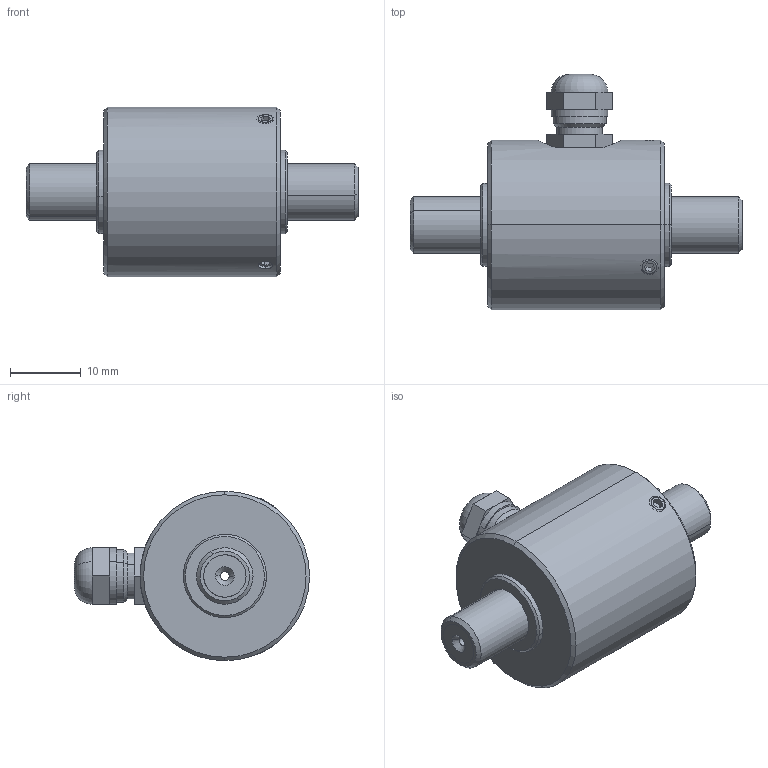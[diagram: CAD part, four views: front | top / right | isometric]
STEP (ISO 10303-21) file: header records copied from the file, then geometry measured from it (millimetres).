
FILE_DESCRIPTION (( 'STEP AP203' ), '1' );
FILE_NAME ('DRW-K-0,5-1Nm.STEP', '2014-05-13T12:16:48', ( 'nsi' ), ( '' ), 'SwSTEP 2.0', 'SolidWorks 2014', '' );
FILE_SCHEMA (( 'CONFIG_CONTROL_DESIGN' ));
Length unit declared in the file: millimetre
Products named in the file (1): DRW-K-0,5-1Nm
Bounding box: 47 x 33.3 x 24 mm (x, y, z)
Surface area: 5360.9 mm2 (no closed solid volume)
Topology: 0 solids, 12 shells, 132 faces, 322 edges, 205 vertices
Faces by surface type: plane 60, cylinder 40, cone 30, torus 2
Entity records: 4128 total; most frequent: CARTESIAN_POINT 904, DIRECTION 700, ORIENTED_EDGE 574, EDGE_CURVE 320, AXIS2_PLACEMENT_3D 261, VERTEX_POINT 205, LINE 178, VECTOR 178
